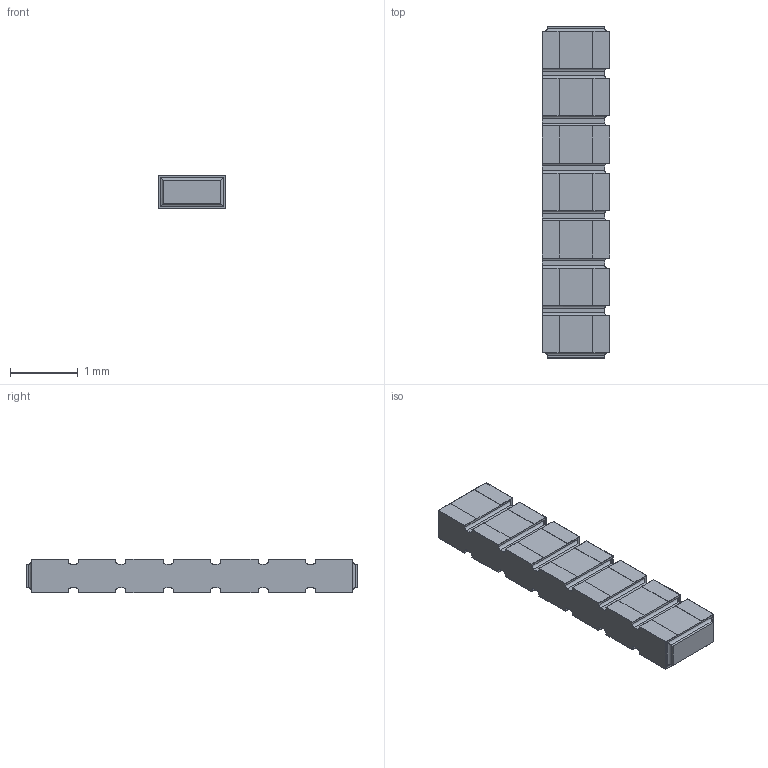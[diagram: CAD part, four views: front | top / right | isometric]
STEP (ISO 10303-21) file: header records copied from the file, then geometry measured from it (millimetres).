
FILE_DESCRIPTION(/* description */ (''),/* implementation_level */ '2;1');
FILE_NAME(/* name */ 'S:\DOCUMENT\AUTOCAD\3D_Modèles\10_3D-pour-VISHAY-COM\PRA\PRA074\PRA074-C2_à_C8\10_IGES\PRA074C7_B-or-N-or-G.stp',/* time_stamp */ '2017-12-19T14:43:39+01:00',/* author */ ('dparmentier'),/* organization */ ('unknown'),/* preprocessor_version */ 'ST-DEVELOPER v17',/* originating_system */ 'Autodesk Inventor 2018',/* authorisation */ '');
FILE_SCHEMA (('AUTOMOTIVE_DESIGN { 1 0 10303 214 3 1 1 }'));
Length unit declared in the file: millimetre
Products named in the file (1): PRA074C7_B-or-N-or-G
Bounding box: 1 x 4.9 x 0.5 mm (x, y, z)
Volume: 2.3 mm3; surface area: 32.6 mm2
Topology: 9 solids, 9 shells, 284 faces, 760 edges, 496 vertices
Faces by surface type: plane 216, cylinder 68
Entity records: 8777 total; most frequent: CARTESIAN_POINT 1541, ORIENTED_EDGE 1520, DIRECTION 1434, EDGE_CURVE 760, LINE 656, VECTOR 656, VERTEX_POINT 496, AXIS2_PLACEMENT_3D 389
